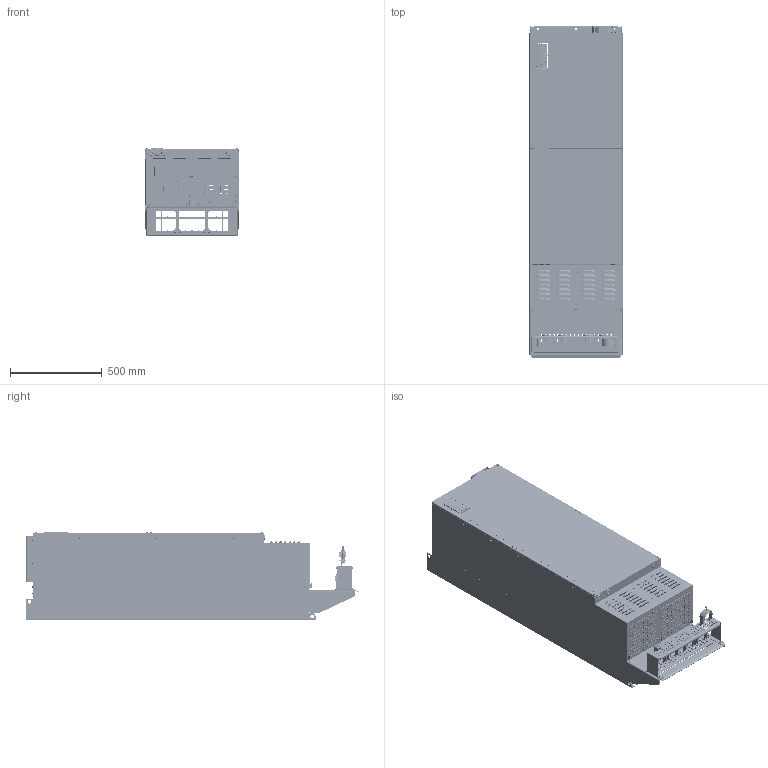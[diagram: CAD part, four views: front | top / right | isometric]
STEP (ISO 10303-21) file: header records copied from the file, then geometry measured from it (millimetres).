
FILE_DESCRIPTION((''),'2;1');
FILE_NAME('SHELL_E3H_SHIELD_ASM','2017-01-19T',('usdd0647'),('Danfoss Power Electronics'),'CREO PARAMETRIC BY PTC INC, 2015480','CREO PARAMETRIC BY PTC INC, 2015480','');
FILE_SCHEMA(('CONFIG_CONTROL_DESIGN','GEOMETRIC_VALIDATION_PROPERTIES_MIM'));
Products named in the file (128): 177G8945; FH-M6-15-ZI; SS-M5-2-ZI; S-M6-2-ZI; FH-M5-12-ZI; TPS-5MM-12; 177G8945_ASM; 177G9017; 177G9017_ASM; 177G8997; 177G8997_ASM; 26513; 177G9156; FH-M5-18-ZI; 177G9156_ASM; 177G4513; 175A5393; 26514; P4001_E1E3_ENCL_BACKCHANNEL_ASM; 177G8961; FH-M8-20-ZI; HFH-M10-25-ZI; 177G8961_ASM; 177G8968_AF0; 177G8968_AF3_ASM; 177G8967_AF0; 177G8967_AF3_ASM; 177G8975_AF4; 177G8975_AF2_ASM; 681X9143; 177G9001_AF6; 177G9001_AF3_ASM; 177G8993; SP-M5-2; 177G8993_ASM; 177G9204; 177G9204_ASM; 177G9235; 177G9235_ASM; 26516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
Assembly tree (482 placements, depth 6):
  SHELL_E3H_SHIELD_ASM
    P4001_E1E3_ASM
      P4001_E1E3_ENCL_BACKCHANNEL_ASM
        177G8945_ASM
          177G8945
          FH-M6-15-ZI  x4
          SS-M5-2-ZI  x28
          S-M6-2-ZI  x12
          FH-M5-12-ZI  x19
          TPS-5MM-12  x6
        177G9017_ASM  x2
          177G9017
        177G8997_ASM  x2
          177G8997
          SS-M5-2-ZI
        26513  x19
        177G9156_ASM
          177G9156
          FH-M5-18-ZI  x4
        177G4513  x4
        175A5393
        26514  x4
      P4001_E1E3_ENCL_MIDPLATE_ASM
        177G8961_ASM
          177G8961
          FH-M8-20-ZI  x16
          FH-M5-12-ZI  x20
          HFH-M10-25-ZI  x4
        177G8968_AF3_ASM
          177G8968_AF0
        177G8967_AF3_ASM
          177G8967_AF0
        177G8975_AF2_ASM
          177G8975_AF4
        681X9143  x17
        177G9001_AF3_ASM
          177G9001_AF6
        177G8993_ASM
          177G8993
          SP-M5-2  x2
        26513  x6
        177G9204_ASM
          177G9204
          FH-M5-12-ZI
          SS-M5-2-ZI  x3
        177G9235_ASM
          177G9235
        26516  x4
        177G9032_ASM
          177G9032
          FH-M6-15-ZI  x4
        26515  x4
        177G9030_ASM
          177G9030
        26514  x4
        27629
        27630  x5
        177A0167_ASM
          177A0167
        177A0168_ASM
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Bounding box: 507.8 x 1809.06 x 483.14 mm (x, y, z)
Volume: 10527008.6 mm3; surface area: 10949787.6 mm2
Topology: 455 solids, 573 shells, 21419 faces, 56862 edges, 37091 vertices
Faces by surface type: plane 12716, cylinder 6505, cone 836, bspline 616, torus 520, revolution 152, sphere 52, extrusion 22
Entity records: 577676 total; most frequent: CARTESIAN_POINT 111874, ORIENTED_EDGE 74496, DIRECTION 73889, EDGE_CURVE 37731, PRESENTATION_STYLE_ASSIGNMENT 26255, VECTOR 25743, LINE 25721, VERTEX_POINT 24515
